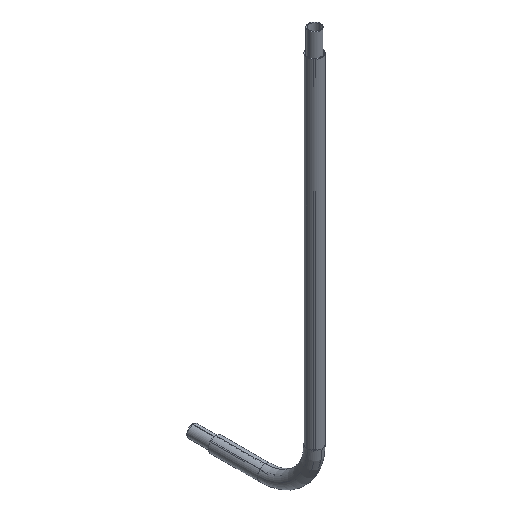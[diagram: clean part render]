
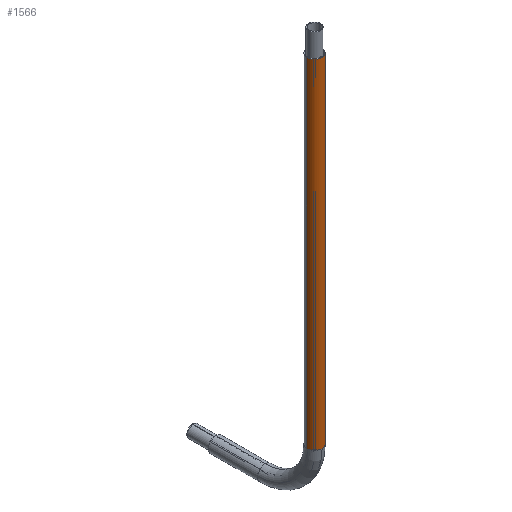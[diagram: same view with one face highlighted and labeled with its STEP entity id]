
A CAD part, isometric view. The second image highlights one B-rep face of the part: STEP entity #1566.
In plain terms, the highlighted cylindrical face has radius 20 mm (diameter 40 mm), a partial arc.
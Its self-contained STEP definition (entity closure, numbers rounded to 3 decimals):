
#81 = EDGE_CURVE ( 'NONE', #295, #341, #1630, .T. ) ;
#243 = VERTEX_POINT ( 'NONE', #1160 ) ;
#295 = VERTEX_POINT ( 'NONE', #1227 ) ;
#297 = VERTEX_POINT ( 'NONE', #1229 ) ;
#329 = VERTEX_POINT ( 'NONE', #1261 ) ;
#341 = VERTEX_POINT ( 'NONE', #1273 ) ;
#404 = EDGE_LOOP ( 'NONE', ( #1644, #1710, #452, #1711, #1753 ) ) ;
#452 = ORIENTED_EDGE ( 'NONE', *, *, #1980, .T. ) ;
#513 = LINE ( 'NONE', #518, #2306 ) ;
#518 = CARTESIAN_POINT ( 'NONE',  ( -199.009, -106.497, 886.813 ) ) ;
#519 = DIRECTION ( 'NONE',  ( 0., 0., -1. ) ) ;
#532 = CARTESIAN_POINT ( 'NONE',  ( -179.009, -106.497, 886.813 ) ) ;
#533 = DIRECTION ( 'NONE',  ( 0., 0., 1. ) ) ;
#534 = DIRECTION ( 'NONE',  ( 1., 0., 0. ) ) ;
#550 = LINE ( 'NONE', #551, #2333 ) ;
#551 = CARTESIAN_POINT ( 'NONE',  ( -159.009, -106.497, 886.813 ) ) ;
#558 = DIRECTION ( 'NONE',  ( 0., 0., -1. ) ) ;
#894 = CARTESIAN_POINT ( 'NONE',  ( -179.009, -106.497, -3.187 ) ) ;
#895 = DIRECTION ( 'NONE',  ( 0., 0., 1. ) ) ;
#896 = DIRECTION ( 'NONE',  ( 1., 0., 0. ) ) ;
#1112 = CARTESIAN_POINT ( 'NONE',  ( -179.009, -106.497, -3.187 ) ) ;
#1113 = DIRECTION ( 'NONE',  ( 0., 0., 1. ) ) ;
#1114 = DIRECTION ( 'NONE',  ( 1., 0., 0. ) ) ;
#1160 = CARTESIAN_POINT ( 'NONE',  ( -159.009, -106.497, 886.813 ) ) ;
#1227 = CARTESIAN_POINT ( 'NONE',  ( -199.009, -106.497, -3.187 ) ) ;
#1229 = CARTESIAN_POINT ( 'NONE',  ( -159.009, -106.497, -3.187 ) ) ;
#1261 = CARTESIAN_POINT ( 'NONE',  ( -199.009, -106.497, 886.813 ) ) ;
#1273 = CARTESIAN_POINT ( 'NONE',  ( -179.009, -126.497, -3.187 ) ) ;
#1303 = DIRECTION ( 'NONE',  ( 0., 0., -1. ) ) ;
#1306 = FACE_OUTER_BOUND ( 'NONE', #404, .T. ) ;
#1307 = CARTESIAN_POINT ( 'NONE',  ( -179.009, -106.497, 886.813 ) ) ;
#1309 = CYLINDRICAL_SURFACE ( 'NONE', #2133, 20. ) ;
#1310 = DIRECTION ( 'NONE',  ( -1., 0., 0. ) ) ;
#1566 = ADVANCED_FACE ( 'NONE', ( #1306 ), #1309, .T. ) ;
#1630 = CIRCLE ( 'NONE', #2095, 20. ) ;
#1644 = ORIENTED_EDGE ( 'NONE', *, *, #1993, .F. ) ;
#1710 = ORIENTED_EDGE ( 'NONE', *, *, #1985, .F. ) ;
#1711 = ORIENTED_EDGE ( 'NONE', *, *, #81, .T. ) ;
#1753 = ORIENTED_EDGE ( 'NONE', *, *, #1957, .T. ) ;
#1957 = EDGE_CURVE ( 'NONE', #341, #297, #2270, .T. ) ;
#1980 = EDGE_CURVE ( 'NONE', #329, #295, #513, .T. ) ;
#1985 = EDGE_CURVE ( 'NONE', #329, #243, #2311, .T. ) ;
#1993 = EDGE_CURVE ( 'NONE', #243, #297, #550, .T. ) ;
#2095 = AXIS2_PLACEMENT_3D ( 'NONE', #1112, #1113, #1114 ) ;
#2133 = AXIS2_PLACEMENT_3D ( 'NONE', #1307, #1303, #1310 ) ;
#2270 = CIRCLE ( 'NONE', #2273, 20. ) ;
#2273 = AXIS2_PLACEMENT_3D ( 'NONE', #894, #895, #896 ) ;
#2306 = VECTOR ( 'NONE', #519, 1000. ) ;
#2311 = CIRCLE ( 'NONE', #2320, 20. ) ;
#2320 = AXIS2_PLACEMENT_3D ( 'NONE', #532, #533, #534 ) ;
#2333 = VECTOR ( 'NONE', #558, 1000. ) ;
